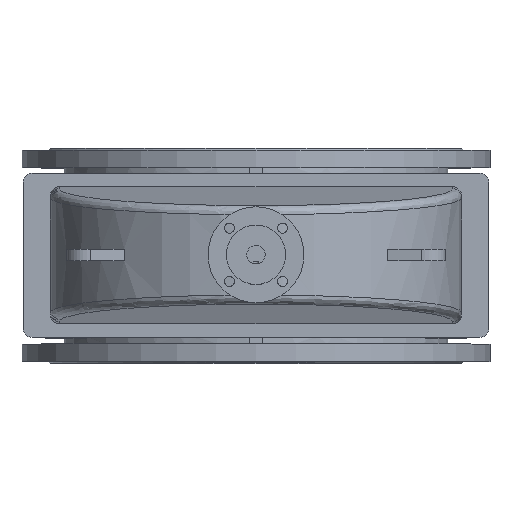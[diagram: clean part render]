
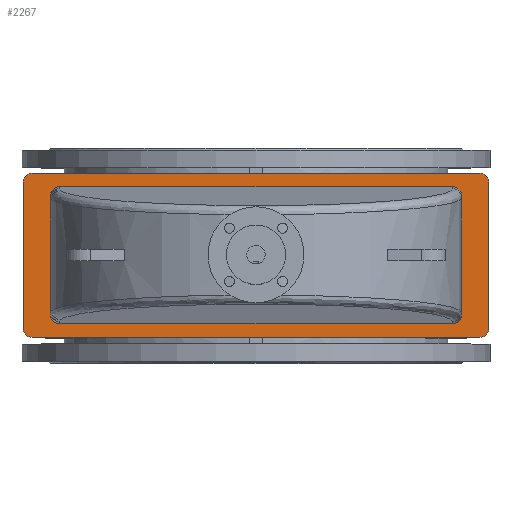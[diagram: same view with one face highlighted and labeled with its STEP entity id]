
A CAD part, top view. The second image highlights one B-rep face of the part: STEP entity #2267.
In plain terms, the highlighted planar face has unit normal (0, 0, 1).
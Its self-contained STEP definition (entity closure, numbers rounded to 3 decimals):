
#2267=ADVANCED_FACE('',(#6865,#6867),#6869,.T.);
#6865=FACE_BOUND('',#6866,.T.);
#6866=EDGE_LOOP('',(#8993,#8994,#8995,#8996,#8997,#8998,#8999,#9000));
#6867=FACE_BOUND('',#6868,.T.);
#6868=EDGE_LOOP('',(#9001,#9002,#9003,#9004,#9005,#9006,#9007,#9008));
#6869=PLANE('',#6870);
#6870=AXIS2_PLACEMENT_3D('',#6871,#6872,#6873);
#6871=CARTESIAN_POINT('',(0.,0.,936.));
#6872=DIRECTION('',(0.,-0.,1.));
#6873=DIRECTION('',(0.,1.,0.));
#8993=ORIENTED_EDGE('',*,*,#9737,.F.);
#8994=ORIENTED_EDGE('',*,*,#9750,.T.);
#8995=ORIENTED_EDGE('',*,*,#9749,.F.);
#8996=ORIENTED_EDGE('',*,*,#9747,.T.);
#8997=ORIENTED_EDGE('',*,*,#9745,.F.);
#8998=ORIENTED_EDGE('',*,*,#9743,.T.);
#8999=ORIENTED_EDGE('',*,*,#9741,.F.);
#9000=ORIENTED_EDGE('',*,*,#9738,.T.);
#9001=ORIENTED_EDGE('',*,*,#9751,.F.);
#9002=ORIENTED_EDGE('',*,*,#9752,.F.);
#9003=ORIENTED_EDGE('',*,*,#9753,.F.);
#9004=ORIENTED_EDGE('',*,*,#9754,.F.);
#9005=ORIENTED_EDGE('',*,*,#9755,.F.);
#9006=ORIENTED_EDGE('',*,*,#9756,.F.);
#9007=ORIENTED_EDGE('',*,*,#9757,.F.);
#9008=ORIENTED_EDGE('',*,*,#9758,.F.);
#9737=EDGE_CURVE('',#10795,#10793,#10797,.F.);
#9738=EDGE_CURVE('',#10798,#10793,#10799,.T.);
#9741=EDGE_CURVE('',#10798,#10801,#10803,.F.);
#9743=EDGE_CURVE('',#10804,#10801,#10806,.T.);
#9745=EDGE_CURVE('',#10804,#10807,#10809,.F.);
#9747=EDGE_CURVE('',#10810,#10807,#10812,.T.);
#9749=EDGE_CURVE('',#10810,#10813,#10815,.F.);
#9750=EDGE_CURVE('',#10795,#10813,#10816,.T.);
#9751=EDGE_CURVE('',#10817,#10818,#10819,.F.);
#9752=EDGE_CURVE('',#10820,#10817,#10821,.T.);
#9753=EDGE_CURVE('',#10822,#10820,#10823,.T.);
#9754=EDGE_CURVE('',#10824,#10822,#10825,.T.);
#9755=EDGE_CURVE('',#10826,#10824,#10827,.F.);
#9756=EDGE_CURVE('',#10828,#10826,#10829,.T.);
#9757=EDGE_CURVE('',#10830,#10828,#10831,.T.);
#9758=EDGE_CURVE('',#10818,#10830,#10832,.T.);
#10793=VERTEX_POINT('',#14167);
#10795=VERTEX_POINT('',#14171);
#10797=CIRCLE('',#14175,20.);
#10798=VERTEX_POINT('',#14179);
#10799=LINE('',#14180,#14181);
#10801=VERTEX_POINT('',#14186);
#10803=CIRCLE('',#14190,20.);
#10804=VERTEX_POINT('',#14194);
#10806=LINE('',#14198,#14199);
#10807=VERTEX_POINT('',#14201);
#10809=CIRCLE('',#14205,20.);
#10810=VERTEX_POINT('',#14209);
#10812=LINE('',#14213,#14214);
#10813=VERTEX_POINT('',#14216);
#10815=CIRCLE('',#14220,20.);
#10816=LINE('',#14224,#14225);
#10817=VERTEX_POINT('',#14227);
#10818=VERTEX_POINT('',#14228);
#10819=(BOUNDED_CURVE()B_SPLINE_CURVE(3,
(#14229,#14230,#14231,#14232),
.UNSPECIFIED.,.F.,.F.)B_SPLINE_CURVE_WITH_KNOTS((4,4),
(0.,1.),
.UNSPECIFIED.)CURVE()GEOMETRIC_REPRESENTATION_ITEM()RATIONAL_B_SPLINE_CURVE((1.,
0.805,0.805,1.))REPRESENTATION_ITEM(''));
#10820=VERTEX_POINT('',#14233);
#10821=LINE('',#14234,#14235);
#10822=VERTEX_POINT('',#14237);
#10823=(BOUNDED_CURVE()B_SPLINE_CURVE(3,
(#14238,#14239,#14240,#14241),
.UNSPECIFIED.,.F.,.F.)B_SPLINE_CURVE_WITH_KNOTS((4,4),
(0.,1.),
.UNSPECIFIED.)CURVE()GEOMETRIC_REPRESENTATION_ITEM()RATIONAL_B_SPLINE_CURVE((1.,
0.805,0.805,1.))REPRESENTATION_ITEM(''));
#10824=VERTEX_POINT('',#14242);
#10825=LINE('',#14243,#14244);
#10826=VERTEX_POINT('',#14246);
#10827=(BOUNDED_CURVE()B_SPLINE_CURVE(3,
(#14247,#14248,#14249,#14250),
.UNSPECIFIED.,.F.,.F.)B_SPLINE_CURVE_WITH_KNOTS((4,4),
(0.,1.),
.UNSPECIFIED.)CURVE()GEOMETRIC_REPRESENTATION_ITEM()RATIONAL_B_SPLINE_CURVE((1.,
0.805,0.805,1.))REPRESENTATION_ITEM(''));
#10828=VERTEX_POINT('',#14251);
#10829=LINE('',#14252,#14253);
#10830=VERTEX_POINT('',#14255);
#10831=(BOUNDED_CURVE()B_SPLINE_CURVE(3,
(#14256,#14257,#14258,#14259),
.UNSPECIFIED.,.F.,.F.)B_SPLINE_CURVE_WITH_KNOTS((4,4),
(0.,1.),
.UNSPECIFIED.)CURVE()GEOMETRIC_REPRESENTATION_ITEM()RATIONAL_B_SPLINE_CURVE((1.,
0.805,0.805,1.))REPRESENTATION_ITEM(''));
#10832=LINE('',#14260,#14261);
#14167=CARTESIAN_POINT('',(-510.,-160.,936.));
#14171=CARTESIAN_POINT('',(-490.,-180.,936.));
#14175=AXIS2_PLACEMENT_3D('',#14176,#14177,#14178);
#14176=CARTESIAN_POINT('',(-490.,-160.,936.));
#14177=DIRECTION('',(0.,-0.,1.));
#14178=DIRECTION('',(-1.,0.,0.));
#14179=CARTESIAN_POINT('',(-510.,160.,936.));
#14180=CARTESIAN_POINT('',(-510.,160.,936.));
#14181=VECTOR('',#14182,1.);
#14182=DIRECTION('',(0.,-1.,0.));
#14186=CARTESIAN_POINT('',(-490.,180.,936.));
#14190=AXIS2_PLACEMENT_3D('',#14191,#14192,#14193);
#14191=CARTESIAN_POINT('',(-490.,160.,936.));
#14192=DIRECTION('',(0.,-0.,1.));
#14193=DIRECTION('',(0.,1.,0.));
#14194=CARTESIAN_POINT('',(490.,180.,936.));
#14198=CARTESIAN_POINT('',(490.,180.,936.));
#14199=VECTOR('',#14200,1.);
#14200=DIRECTION('',(-1.,0.,0.));
#14201=CARTESIAN_POINT('',(510.,160.,936.));
#14205=AXIS2_PLACEMENT_3D('',#14206,#14207,#14208);
#14206=CARTESIAN_POINT('',(490.,160.,936.));
#14207=DIRECTION('',(0.,-0.,1.));
#14208=DIRECTION('',(1.,0.,0.));
#14209=CARTESIAN_POINT('',(510.,-160.,936.));
#14213=CARTESIAN_POINT('',(510.,-160.,936.));
#14214=VECTOR('',#14215,1.);
#14215=DIRECTION('',(0.,1.,0.));
#14216=CARTESIAN_POINT('',(490.,-180.,936.));
#14220=AXIS2_PLACEMENT_3D('',#14221,#14222,#14223);
#14221=CARTESIAN_POINT('',(490.,-160.,936.));
#14222=DIRECTION('',(0.,-0.,1.));
#14223=DIRECTION('',(0.,-1.,0.));
#14224=CARTESIAN_POINT('',(-490.,-180.,936.));
#14225=VECTOR('',#14226,1.);
#14226=DIRECTION('',(1.,0.,0.));
#14227=CARTESIAN_POINT('',(430.,-150.,936.));
#14228=CARTESIAN_POINT('',(450.,-129.924,936.));
#14229=CARTESIAN_POINT('',(450.,-129.924,936.));
#14230=CARTESIAN_POINT('',(450.,-141.684,936.));
#14231=CARTESIAN_POINT('',(441.716,-150.,936.));
#14232=CARTESIAN_POINT('',(430.,-150.,936.));
#14233=CARTESIAN_POINT('',(-430.,-150.,936.));
#14234=CARTESIAN_POINT('',(-430.,-150.,936.));
#14235=VECTOR('',#14236,1.);
#14236=DIRECTION('',(1.,0.,0.));
#14237=CARTESIAN_POINT('',(-450.,-129.924,936.));
#14238=CARTESIAN_POINT('',(-450.,-129.924,936.));
#14239=CARTESIAN_POINT('',(-450.,-141.684,936.));
#14240=CARTESIAN_POINT('',(-441.716,-150.,936.));
#14241=CARTESIAN_POINT('',(-430.,-150.,936.));
#14242=CARTESIAN_POINT('',(-450.,129.924,936.));
#14243=CARTESIAN_POINT('',(-450.,129.924,936.));
#14244=VECTOR('',#14245,1.);
#14245=DIRECTION('',(0.,-1.,0.));
#14246=CARTESIAN_POINT('',(-430.,150.,936.));
#14247=CARTESIAN_POINT('',(-450.,129.924,936.));
#14248=CARTESIAN_POINT('',(-450.,141.684,936.));
#14249=CARTESIAN_POINT('',(-441.716,150.,936.));
#14250=CARTESIAN_POINT('',(-430.,150.,936.));
#14251=CARTESIAN_POINT('',(430.,150.,936.));
#14252=CARTESIAN_POINT('',(430.,150.,936.));
#14253=VECTOR('',#14254,1.);
#14254=DIRECTION('',(-1.,0.,0.));
#14255=CARTESIAN_POINT('',(450.,129.924,936.));
#14256=CARTESIAN_POINT('',(450.,129.924,936.));
#14257=CARTESIAN_POINT('',(450.,141.684,936.));
#14258=CARTESIAN_POINT('',(441.716,150.,936.));
#14259=CARTESIAN_POINT('',(430.,150.,936.));
#14260=CARTESIAN_POINT('',(450.,-129.924,936.));
#14261=VECTOR('',#14262,1.);
#14262=DIRECTION('',(0.,1.,0.));
